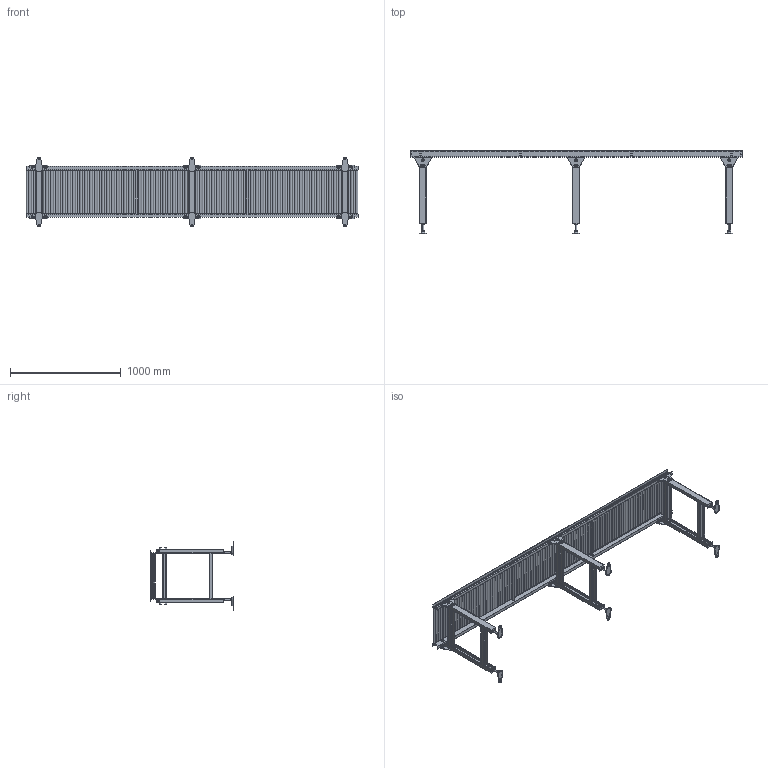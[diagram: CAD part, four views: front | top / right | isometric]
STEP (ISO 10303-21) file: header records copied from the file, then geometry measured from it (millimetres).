
FILE_DESCRIPTION (( 'STEP AP214' ), '1' );
FILE_NAME ('JR-1912-400-22-3000.STEP', '2022-09-27T06:43:02', ( '' ), ( '' ), 'SwSTEP 2.0', 'SolidWorks 2017', '' );
FILE_SCHEMA (( 'AUTOMOTIVE_DESIGN' ));
Length unit declared in the file: millimetre
Products named in the file (1): JR-1912-400-22-3000
Bounding box: 2992 x 749.95 x 629 mm (x, y, z)
Volume: 20222414.6 mm3; surface area: 6769671.1 mm2
Topology: 16 solids, 16 shells, 4454 faces, 10116 edges, 6616 vertices
Faces by surface type: plane 2322, cylinder 2108, cone 12, bspline 12
Entity records: 177693 total; most frequent: DIRECTION 23536, CARTESIAN_POINT 22861, ORIENTED_EDGE 20232, EDGE_CURVE 10116, AXIS2_PLACEMENT_3D 9031, VERTEX_POINT 6616, EDGE_LOOP 5788, VECTOR 5474
